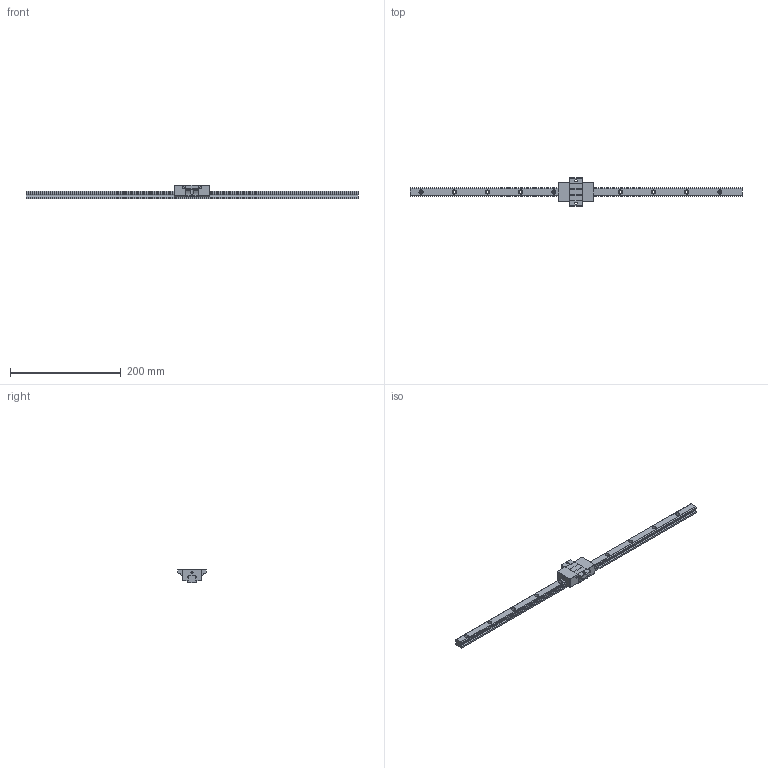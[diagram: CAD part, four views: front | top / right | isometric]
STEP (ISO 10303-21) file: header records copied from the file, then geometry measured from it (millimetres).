
FILE_DESCRIPTION (( 'STEP AP203' ), '1' );
FILE_NAME ('TRS15FS-DU.STEP', '2024-07-11T05:48:12', ( '' ), ( '' ), 'SwSTEP 2.0', 'SolidWorks 2022', '' );
FILE_SCHEMA (( 'CONFIG_CONTROL_DESIGN' ));
Length unit declared in the file: millimetre
Products named in the file (1): TRS15FS-DU
Bounding box: 600 x 52 x 24 mm (x, y, z)
Volume: 138463.8 mm3; surface area: 48107.9 mm2
Topology: 2 solids, 2 shells, 222 faces, 590 edges, 384 vertices
Faces by surface type: cylinder 116, plane 102, sphere 4
Entity records: 7289 total; most frequent: CARTESIAN_POINT 1501, DIRECTION 1226, ORIENTED_EDGE 1172, EDGE_CURVE 586, AXIS2_PLACEMENT_3D 437, VERTEX_POINT 384, LINE 352, VECTOR 352
